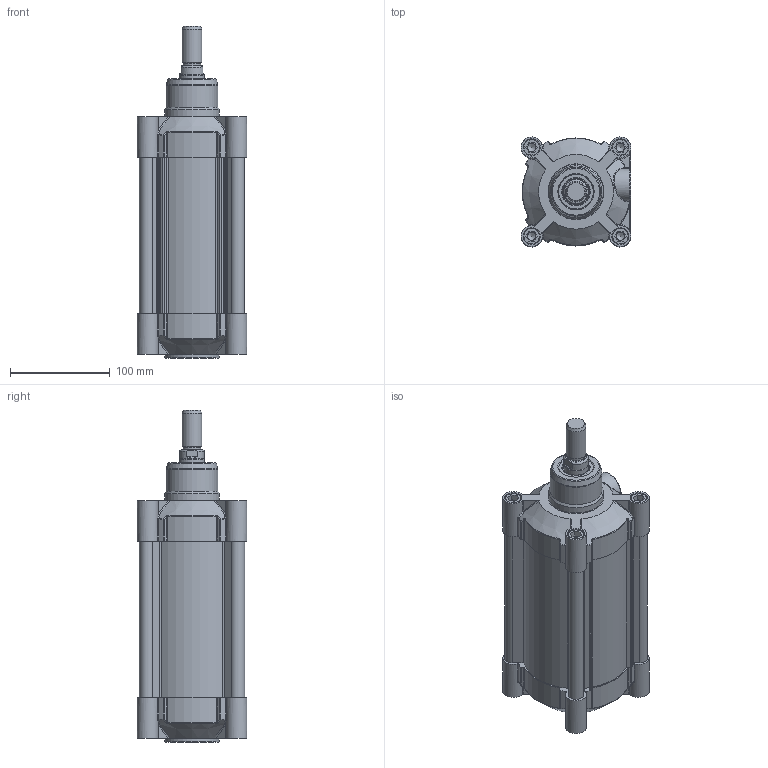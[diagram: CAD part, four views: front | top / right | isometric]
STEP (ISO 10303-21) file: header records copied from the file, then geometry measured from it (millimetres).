
FILE_DESCRIPTION(/* description */ (''),/* implementation_level */ '2;1');
FILE_NAME(/* name */ 'T:\Archivio Inventor\- 00 NUOVI STP PER SITO CON STELO CHE SI MUOVE\SERIE H - U\SERIE HDM\HDM100 - TUBO NUOVO\HDM100.100.GS.M.stp',/* time_stamp */ '2018-08-02T09:20:04+02:00',/* author */ ('carlo.corazza'),/* organization */ (''),/* preprocessor_version */ 'ST-DEVELOPER v16.5',/* originating_system */ 'Autodesk Inventor 2017',/* authorisation */ '');
FILE_SCHEMA (('AUTOMOTIVE_DESIGN { 1 0 10303 214 3 1 1 }'));
Length unit declared in the file: millimetre
Products named in the file (5): HDM100.100.GS.M; TP; TA; STELO-100; CORPO-100
Assembly tree (4 placements, depth 2):
  HDM100.100.GS.M
    TP
    TA
    STELO-100
    CORPO-100
Bounding box: 110 x 110 x 333 mm (x, y, z)
Volume: 979382.2 mm3; surface area: 374195.7 mm2
Topology: 4 solids, 29 shells, 1355 faces, 3135 edges, 1912 vertices
Faces by surface type: plane 408, cylinder 313, bspline 270, torus 126, cone 122, sphere 116
Full cylindrical faces by diameter (mm): 5 x2, 5.9 x2, 6.5 x2, 7.25 x2, 8.376 x8, 9.4 x4, 10 x8, 10.3 x8, 11.8 x4, 11.9 x2, 12 x4, 16 x9, 16.3 x8, 17 x2, 17.5 x1, 18.631 x2, 20 x1, 24.5 x1, 25 x1, 25.8 x1, 25.962 x1, 30 x1, 31.5 x2, 35 x3, 52 x1, 55 x2, 100 x1
Entity records: 43668 total; most frequent: CARTESIAN_POINT 13702, ORIENTED_EDGE 5710, DIRECTION 5644, EDGE_CURVE 2855, AXIS2_PLACEMENT_3D 2293, VERTEX_POINT 1857, EDGE_LOOP 1690, STYLED_ITEM 1359
